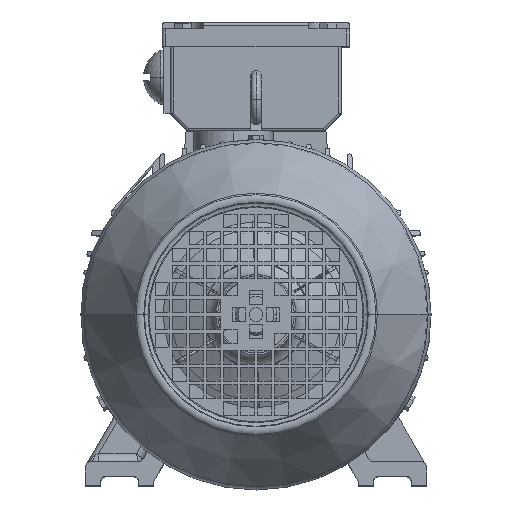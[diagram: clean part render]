
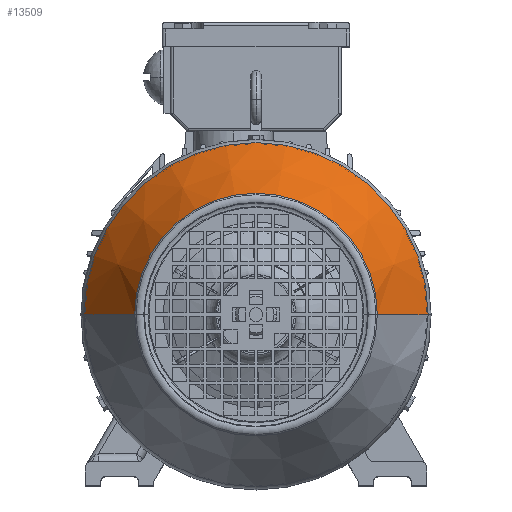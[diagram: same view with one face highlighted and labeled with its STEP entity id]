
A CAD part, top view. The second image highlights one B-rep face of the part: STEP entity #13509.
In plain terms, the highlighted conical face has half-angle 30 degrees and reference radius 100.958 mm.
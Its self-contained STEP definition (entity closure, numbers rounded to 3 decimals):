
#1046 = ORIENTED_EDGE ( 'NONE', *, *, #29617, .T. ) ;
#1047 = ORIENTED_EDGE ( 'NONE', *, *, #29616, .T. ) ;
#1048 = ORIENTED_EDGE ( 'NONE', *, *, #29615, .F. ) ;
#1049 = ORIENTED_EDGE ( 'NONE', *, *, #29614, .F. ) ;
#4666 = VERTEX_POINT ( 'NONE', #39080 ) ;
#4688 = VERTEX_POINT ( 'NONE', #39101 ) ;
#4694 = VERTEX_POINT ( 'NONE', #39107 ) ;
#4700 = VERTEX_POINT ( 'NONE', #39113 ) ;
#8687 = AXIS2_PLACEMENT_3D ( 'NONE', #33132, #33129, #33128 ) ;
#13509 = ADVANCED_FACE ( 'NONE', ( #33356 ), #33360, .T. ) ;
#17637 = AXIS2_PLACEMENT_3D ( 'NONE', #21895, #21896, #21897 ) ;
#17638 = AXIS2_PLACEMENT_3D ( 'NONE', #21899, #21900, #21901 ) ;
#20269 = LINE ( 'NONE', #21378, #20801 ) ;
#20797 = LINE ( 'NONE', #21894, #20805 ) ;
#20800 = CIRCLE ( 'NONE', #17637, 100.958 ) ;
#20801 = VECTOR ( 'NONE', #21892, 1000. ) ;
#20803 = CIRCLE ( 'NONE', #17638, 71.155 ) ;
#20805 = VECTOR ( 'NONE', #21890, 1000. ) ;
#21378 = CARTESIAN_POINT ( 'NONE',  ( -100.958, 0., 150.379 ) ) ;
#21890 = DIRECTION ( 'NONE',  ( 0.5, 0., -0.866 ) ) ;
#21892 = DIRECTION ( 'NONE',  ( -0.5, 0., -0.866 ) ) ;
#21894 = CARTESIAN_POINT ( 'NONE',  ( 100.958, 0., 150.379 ) ) ;
#21895 = CARTESIAN_POINT ( 'NONE',  ( 0., 0., 150.379 ) ) ;
#21896 = DIRECTION ( 'NONE',  ( 0., 0., -1. ) ) ;
#21897 = DIRECTION ( 'NONE',  ( -1., 0., 0. ) ) ;
#21899 = CARTESIAN_POINT ( 'NONE',  ( 0., 0., 202. ) ) ;
#21900 = DIRECTION ( 'NONE',  ( 0., 0., -1. ) ) ;
#21901 = DIRECTION ( 'NONE',  ( -1., 0., 0. ) ) ;
#29614 = EDGE_CURVE ( 'NONE', #4694, #4700, #20269, .T. ) ;
#29615 = EDGE_CURVE ( 'NONE', #4700, #4666, #20800, .T. ) ;
#29616 = EDGE_CURVE ( 'NONE', #4688, #4666, #20797, .T. ) ;
#29617 = EDGE_CURVE ( 'NONE', #4694, #4688, #20803, .T. ) ;
#33128 = DIRECTION ( 'NONE',  ( -1., 0., 0. ) ) ;
#33129 = DIRECTION ( 'NONE',  ( 0., 0., -1. ) ) ;
#33132 = CARTESIAN_POINT ( 'NONE',  ( 0., 0., 150.379 ) ) ;
#33356 = FACE_OUTER_BOUND ( 'NONE', #37457, .T. ) ;
#33360 = CONICAL_SURFACE ( 'NONE', #8687, 100.958, 0.524 ) ;
#37457 = EDGE_LOOP ( 'NONE', ( #1046, #1047, #1048, #1049 ) ) ;
#39080 = CARTESIAN_POINT ( 'NONE',  ( 100.958, 0., 150.379 ) ) ;
#39101 = CARTESIAN_POINT ( 'NONE',  ( 71.155, 0., 202. ) ) ;
#39107 = CARTESIAN_POINT ( 'NONE',  ( -71.155, 0., 202. ) ) ;
#39113 = CARTESIAN_POINT ( 'NONE',  ( -100.958, 0., 150.379 ) ) ;
